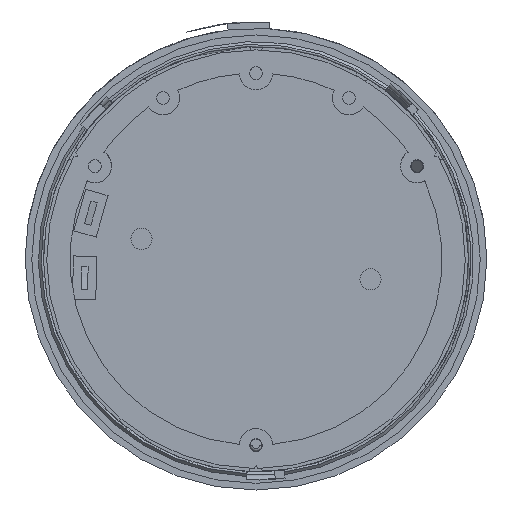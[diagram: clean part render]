
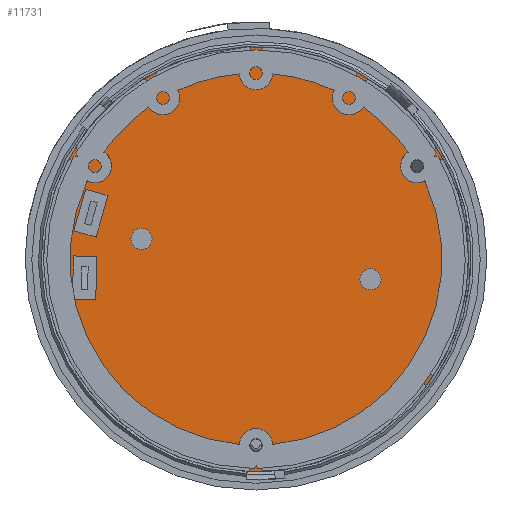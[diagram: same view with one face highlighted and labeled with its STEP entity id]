
A CAD part, front view. The second image highlights one B-rep face of the part: STEP entity #11731.
In plain terms, the highlighted planar face has unit normal (0, -1, 0).
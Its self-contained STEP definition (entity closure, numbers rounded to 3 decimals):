
#11371=CARTESIAN_POINT('',(0.,42.5,0.));
#11372=DIRECTION('',(0.,1.,0.));
#11373=DIRECTION('',(1.,0.,0.));
#11374=AXIS2_PLACEMENT_3D('',#11371,#11372,#11373);
#11376=CARTESIAN_POINT('',(0.,42.5,0.));
#11377=DIRECTION('',(0.,1.,0.));
#11378=DIRECTION('',(-1.,0.,0.));
#11379=AXIS2_PLACEMENT_3D('',#11376,#11377,#11378);
#11381=CARTESIAN_POINT('',(0.,42.5,-28.));
#11382=DIRECTION('',(0.,-1.,0.));
#11383=DIRECTION('',(1.,0.,0.));
#11384=AXIS2_PLACEMENT_3D('',#11381,#11382,#11383);
#11386=CARTESIAN_POINT('',(0.,42.5,-28.));
#11387=DIRECTION('',(0.,-1.,0.));
#11388=DIRECTION('',(-1.,0.,0.));
#11389=AXIS2_PLACEMENT_3D('',#11386,#11387,#11388);
#11391=CARTESIAN_POINT('',(24.249,42.5,14.));
#11392=DIRECTION('',(0.,-1.,0.));
#11393=DIRECTION('',(1.,0.,0.));
#11394=AXIS2_PLACEMENT_3D('',#11391,#11392,#11393);
#11396=CARTESIAN_POINT('',(24.249,42.5,14.));
#11397=DIRECTION('',(0.,-1.,0.));
#11398=DIRECTION('',(-1.,0.,0.));
#11399=AXIS2_PLACEMENT_3D('',#11396,#11397,#11398);
#11401=CARTESIAN_POINT('',(17.234,42.5,-3.039));
#11402=DIRECTION('',(0.,-1.,0.));
#11403=DIRECTION('',(1.,0.,0.));
#11404=AXIS2_PLACEMENT_3D('',#11401,#11402,#11403);
#11406=CARTESIAN_POINT('',(17.234,42.5,-3.039));
#11407=DIRECTION('',(0.,-1.,0.));
#11408=DIRECTION('',(-1.,0.,0.));
#11409=AXIS2_PLACEMENT_3D('',#11406,#11407,#11408);
#11411=CARTESIAN_POINT('',(-17.234,42.5,3.039));
#11412=DIRECTION('',(0.,-1.,0.));
#11413=DIRECTION('',(1.,0.,0.));
#11414=AXIS2_PLACEMENT_3D('',#11411,#11412,#11413);
#11416=CARTESIAN_POINT('',(-17.234,42.5,3.039));
#11417=DIRECTION('',(0.,-1.,0.));
#11418=DIRECTION('',(-1.,0.,0.));
#11419=AXIS2_PLACEMENT_3D('',#11416,#11417,#11418);
#11421=DIRECTION('',(-0.017,0.,-1.));
#11422=VECTOR('',#11421,6.5);
#11423=CARTESIAN_POINT('',(-27.496,42.5,0.48));
#11424=LINE('',#11423,#11422);
#11425=DIRECTION('',(1.,0.,-0.017));
#11426=VECTOR('',#11425,3.5);
#11427=CARTESIAN_POINT('',(-27.609,42.5,-6.019));
#11428=LINE('',#11427,#11426);
#11429=DIRECTION('',(0.017,0.,1.));
#11430=VECTOR('',#11429,6.5);
#11431=CARTESIAN_POINT('',(-24.11,42.5,-6.08));
#11432=LINE('',#11431,#11430);
#11433=DIRECTION('',(-1.,0.,0.017));
#11434=VECTOR('',#11433,3.5);
#11435=CARTESIAN_POINT('',(-23.996,42.5,0.419));
#11436=LINE('',#11435,#11434);
#11437=DIRECTION('',(0.961,0.,-0.276));
#11438=VECTOR('',#11437,3.5);
#11439=CARTESIAN_POINT('',(-27.429,42.5,4.279));
#11440=LINE('',#11439,#11438);
#11441=DIRECTION('',(0.276,0.,0.961));
#11442=VECTOR('',#11441,6.5);
#11443=CARTESIAN_POINT('',(-24.065,42.5,3.315));
#11444=LINE('',#11443,#11442);
#11445=DIRECTION('',(-0.961,0.,0.276));
#11446=VECTOR('',#11445,3.5);
#11447=CARTESIAN_POINT('',(-22.273,42.5,9.563));
#11448=LINE('',#11447,#11446);
#11449=DIRECTION('',(-0.276,0.,-0.961));
#11450=VECTOR('',#11449,6.5);
#11451=CARTESIAN_POINT('',(-25.638,42.5,10.528));
#11452=LINE('',#11451,#11450);
#11584=CARTESIAN_POINT('',(-32.,42.5,0.));
#11585=CARTESIAN_POINT('',(32.,42.5,0.));
#11586=VERTEX_POINT('',#11584);
#11587=VERTEX_POINT('',#11585);
#11588=CARTESIAN_POINT('',(0.9,42.5,-28.));
#11589=CARTESIAN_POINT('',(-0.9,42.5,-28.));
#11590=VERTEX_POINT('',#11588);
#11591=VERTEX_POINT('',#11589);
#11592=CARTESIAN_POINT('',(15.634,42.5,-3.039));
#11593=CARTESIAN_POINT('',(18.834,42.5,-3.039));
#11594=VERTEX_POINT('',#11592);
#11595=VERTEX_POINT('',#11593);
#11596=CARTESIAN_POINT('',(-18.834,42.5,3.039));
#11597=CARTESIAN_POINT('',(-15.634,42.5,3.039));
#11598=VERTEX_POINT('',#11596);
#11599=VERTEX_POINT('',#11597);
#11600=CARTESIAN_POINT('',(25.149,42.5,14.));
#11601=CARTESIAN_POINT('',(23.349,42.5,14.));
#11602=VERTEX_POINT('',#11600);
#11603=VERTEX_POINT('',#11601);
#11612=CARTESIAN_POINT('',(-27.496,42.5,0.48));
#11613=CARTESIAN_POINT('',(-27.609,42.5,-6.019));
#11614=VERTEX_POINT('',#11612);
#11615=VERTEX_POINT('',#11613);
#11616=CARTESIAN_POINT('',(-24.11,42.5,-6.08));
#11617=VERTEX_POINT('',#11616);
#11618=CARTESIAN_POINT('',(-23.996,42.5,0.419));
#11619=VERTEX_POINT('',#11618);
#11656=CARTESIAN_POINT('',(-27.429,42.5,4.279));
#11657=CARTESIAN_POINT('',(-24.065,42.5,3.315));
#11658=VERTEX_POINT('',#11656);
#11659=VERTEX_POINT('',#11657);
#11660=CARTESIAN_POINT('',(-22.273,42.5,9.563));
#11661=VERTEX_POINT('',#11660);
#11662=CARTESIAN_POINT('',(-25.638,42.5,10.528));
#11663=VERTEX_POINT('',#11662);
#11676=CARTESIAN_POINT('',(0.,42.5,0.));
#11677=DIRECTION('',(0.,-1.,0.));
#11678=DIRECTION('',(-1.,0.,0.));
#11679=AXIS2_PLACEMENT_3D('',#11676,#11677,#11678);
#11680=PLANE('',#11679);
#11682=ORIENTED_EDGE('',*,*,#11681,.T.);
#11684=ORIENTED_EDGE('',*,*,#11683,.T.);
#11685=EDGE_LOOP('',(#11682,#11684));
#11686=FACE_OUTER_BOUND('',#11685,.F.);
#11688=ORIENTED_EDGE('',*,*,#11687,.T.);
#11690=ORIENTED_EDGE('',*,*,#11689,.T.);
#11691=EDGE_LOOP('',(#11688,#11690));
#11692=FACE_BOUND('',#11691,.F.);
#11694=ORIENTED_EDGE('',*,*,#11693,.T.);
#11696=ORIENTED_EDGE('',*,*,#11695,.T.);
#11697=EDGE_LOOP('',(#11694,#11696));
#11698=FACE_BOUND('',#11697,.F.);
#11700=ORIENTED_EDGE('',*,*,#11699,.T.);
#11702=ORIENTED_EDGE('',*,*,#11701,.T.);
#11703=EDGE_LOOP('',(#11700,#11702));
#11704=FACE_BOUND('',#11703,.F.);
#11706=ORIENTED_EDGE('',*,*,#11705,.T.);
#11708=ORIENTED_EDGE('',*,*,#11707,.T.);
#11709=EDGE_LOOP('',(#11706,#11708));
#11710=FACE_BOUND('',#11709,.F.);
#11712=ORIENTED_EDGE('',*,*,#11711,.T.);
#11714=ORIENTED_EDGE('',*,*,#11713,.T.);
#11716=ORIENTED_EDGE('',*,*,#11715,.T.);
#11718=ORIENTED_EDGE('',*,*,#11717,.T.);
#11719=EDGE_LOOP('',(#11712,#11714,#11716,#11718));
#11720=FACE_BOUND('',#11719,.F.);
#11722=ORIENTED_EDGE('',*,*,#11721,.T.);
#11724=ORIENTED_EDGE('',*,*,#11723,.T.);
#11726=ORIENTED_EDGE('',*,*,#11725,.T.);
#11728=ORIENTED_EDGE('',*,*,#11727,.T.);
#11729=EDGE_LOOP('',(#11722,#11724,#11726,#11728));
#11730=FACE_BOUND('',#11729,.F.);
#11731=ADVANCED_FACE('',(#11686,#11692,#11698,#11704,#11710,#11720,#11730),
#11680,.T.);
#11375=CIRCLE('',#11374,32.);
#11380=CIRCLE('',#11379,32.);
#11385=CIRCLE('',#11384,0.9);
#11390=CIRCLE('',#11389,0.9);
#11395=CIRCLE('',#11394,0.9);
#11400=CIRCLE('',#11399,0.9);
#11405=CIRCLE('',#11404,1.6);
#11410=CIRCLE('',#11409,1.6);
#11415=CIRCLE('',#11414,1.6);
#11420=CIRCLE('',#11419,1.6);
#11681=EDGE_CURVE('',#11587,#11586,#11375,.T.);
#11683=EDGE_CURVE('',#11586,#11587,#11380,.T.);
#11687=EDGE_CURVE('',#11590,#11591,#11385,.T.);
#11689=EDGE_CURVE('',#11591,#11590,#11390,.T.);
#11693=EDGE_CURVE('',#11602,#11603,#11395,.T.);
#11695=EDGE_CURVE('',#11603,#11602,#11400,.T.);
#11699=EDGE_CURVE('',#11595,#11594,#11405,.T.);
#11701=EDGE_CURVE('',#11594,#11595,#11410,.T.);
#11705=EDGE_CURVE('',#11599,#11598,#11415,.T.);
#11707=EDGE_CURVE('',#11598,#11599,#11420,.T.);
#11711=EDGE_CURVE('',#11614,#11615,#11424,.T.);
#11713=EDGE_CURVE('',#11615,#11617,#11428,.T.);
#11715=EDGE_CURVE('',#11617,#11619,#11432,.T.);
#11717=EDGE_CURVE('',#11619,#11614,#11436,.T.);
#11721=EDGE_CURVE('',#11658,#11659,#11440,.T.);
#11723=EDGE_CURVE('',#11659,#11661,#11444,.T.);
#11725=EDGE_CURVE('',#11661,#11663,#11448,.T.);
#11727=EDGE_CURVE('',#11663,#11658,#11452,.T.);
